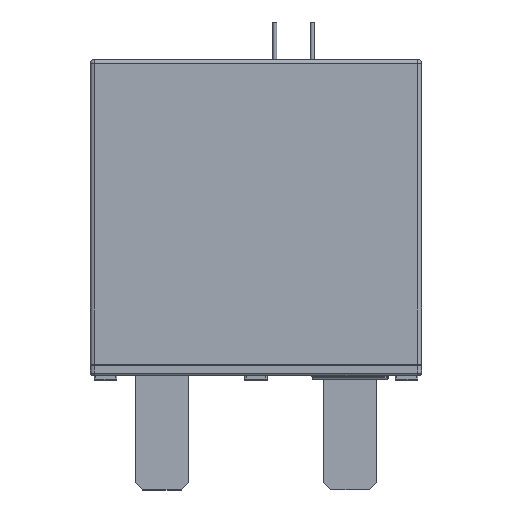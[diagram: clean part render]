
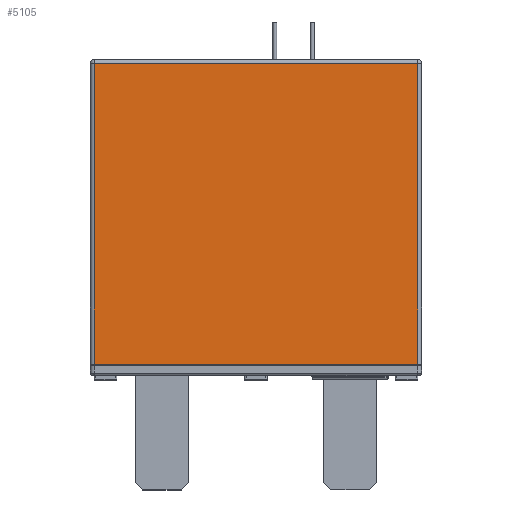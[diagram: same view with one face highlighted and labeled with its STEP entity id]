
A CAD part, top view. The second image highlights one B-rep face of the part: STEP entity #5105.
In plain terms, the highlighted planar face has unit normal (0, 0, 1).
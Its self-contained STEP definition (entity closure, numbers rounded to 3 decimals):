
#119=DIRECTION('',(1.,0.,0.));
#120=VECTOR('',#119,43.);
#121=CARTESIAN_POINT('',(-21.5,1.5,8.25));
#122=LINE('',#121,#120);
#334=DIRECTION('',(1.,0.,0.));
#335=VECTOR('',#334,43.);
#336=CARTESIAN_POINT('',(-21.5,41.5,8.25));
#337=LINE('',#336,#335);
#341=DIRECTION('',(0.,1.,0.));
#342=VECTOR('',#341,40.);
#343=CARTESIAN_POINT('',(-21.5,1.5,8.25));
#344=LINE('',#343,#342);
#372=DIRECTION('',(0.,1.,0.));
#373=VECTOR('',#372,40.);
#374=CARTESIAN_POINT('',(21.5,1.5,8.25));
#375=LINE('',#374,#373);
#4660=CARTESIAN_POINT('',(-21.5,1.5,8.25));
#4661=VERTEX_POINT('',#4660);
#4662=CARTESIAN_POINT('',(21.5,1.5,8.25));
#4663=VERTEX_POINT('',#4662);
#4794=CARTESIAN_POINT('',(-21.5,41.5,8.25));
#4795=VERTEX_POINT('',#4794);
#4798=CARTESIAN_POINT('',(21.5,41.5,8.25));
#4799=VERTEX_POINT('',#4798);
#5092=CARTESIAN_POINT('',(-21.5,1.5,8.25));
#5093=DIRECTION('',(0.,0.,1.));
#5094=DIRECTION('',(1.,0.,0.));
#5095=AXIS2_PLACEMENT_3D('',#5092,#5093,#5094);
#5096=PLANE('',#5095);
#5098=ORIENTED_EDGE('',*,*,#5097,.T.);
#5100=ORIENTED_EDGE('',*,*,#5099,.F.);
#5101=ORIENTED_EDGE('',*,*,#4898,.F.);
#5102=ORIENTED_EDGE('',*,*,#5084,.T.);
#5103=EDGE_LOOP('',(#5098,#5100,#5101,#5102));
#5104=FACE_OUTER_BOUND('',#5103,.F.);
#5105=ADVANCED_FACE('',(#5104),#5096,.T.);
#4898=EDGE_CURVE('',#4661,#4663,#122,.T.);
#5084=EDGE_CURVE('',#4661,#4795,#344,.T.);
#5097=EDGE_CURVE('',#4795,#4799,#337,.T.);
#5099=EDGE_CURVE('',#4663,#4799,#375,.T.);
